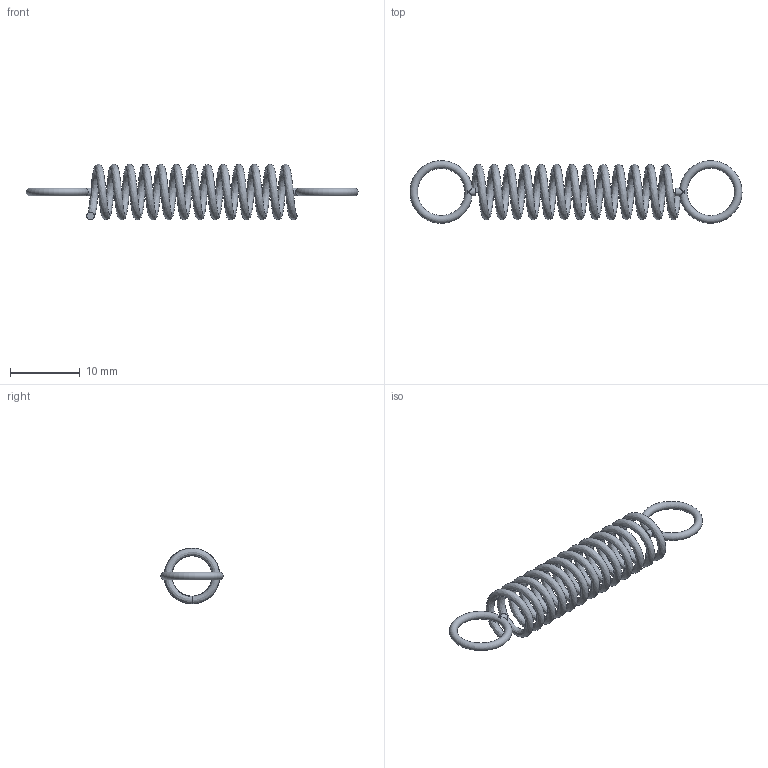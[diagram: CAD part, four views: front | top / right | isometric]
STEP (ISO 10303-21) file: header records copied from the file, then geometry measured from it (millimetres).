
FILE_DESCRIPTION(('Open CASCADE Model'),'2;1');
FILE_NAME('Open CASCADE Shape Model','2026-10-02T07:04:59',('Author'),( 'Open CASCADE'),'Open CASCADE STEP processor 7.9','Open CASCADE 7.9' ,'Unknown');
FILE_SCHEMA(('AUTOMOTIVE_DESIGN { 1 0 10303 214 1 1 1 1 }'));
Length unit declared in the file: millimetre
Products named in the file (4): Open CASCADE STEP translator 7.9 5; Open CASCADE STEP translator 7.9 5.1; Open CASCADE STEP translator 7.9 5.2; Open CASCADE STEP translator 7.9 5.3
Assembly tree (3 placements, depth 2):
  Open CASCADE STEP translator 7.9 5
    Open CASCADE STEP translator 7.9 5.1
    Open CASCADE STEP translator 7.9 5.2
    Open CASCADE STEP translator 7.9 5.3
Bounding box: 47.76 x 8.98 x 8 mm (x, y, z)
Volume: 316.1 mm3; surface area: 1154.4 mm2
Topology: 3 solids, 3 shells, 19 faces, 42 edges, 25 vertices
Faces by surface type: cylinder 8, plane 8, torus 2, bspline 1
Full cylindrical faces by diameter (mm): 1.1 x2
Entity records: 3066 total; most frequent: CARTESIAN_POINT 2254, DIRECTION 112, ORIENTED_EDGE 84, PCURVE 84, DEFINITIONAL_REPRESENTATION 84, B_SPLINE_CURVE_WITH_KNOTS 66, EDGE_CURVE 42, AXIS2_PLACEMENT_3D 35
